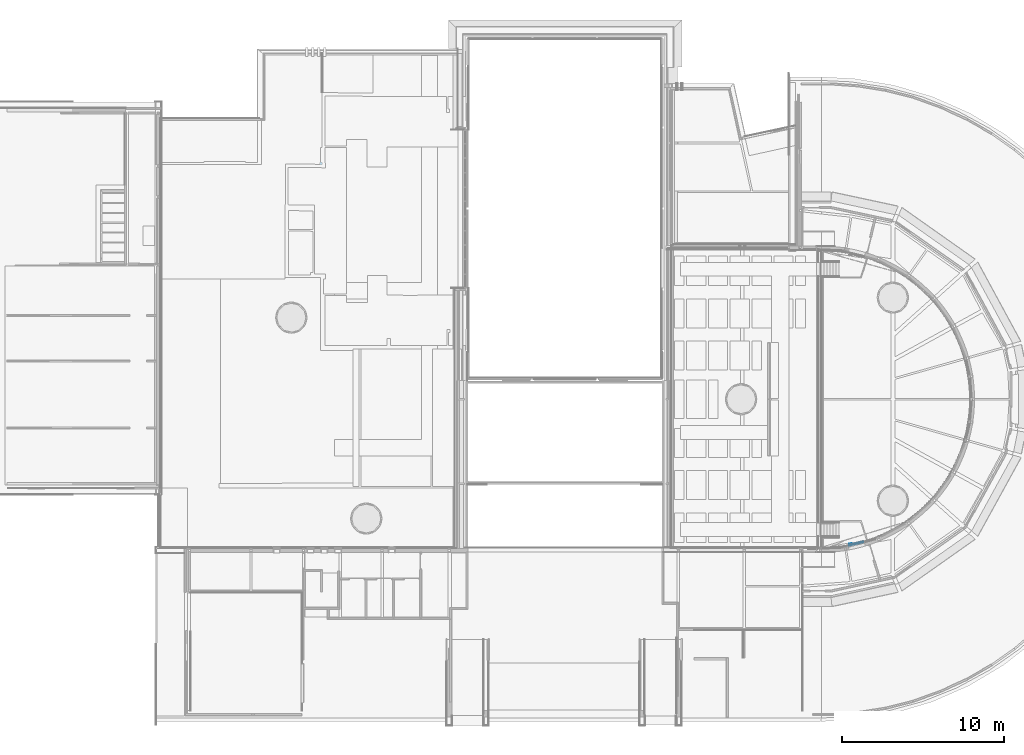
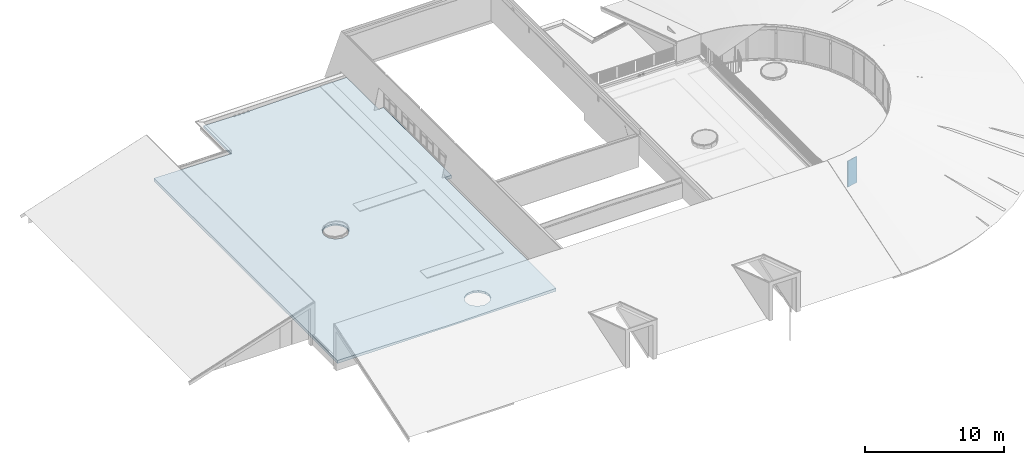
# One storey, part 44 of 66: 1 plate, 1 slab, 1 element without a shape of its own.
"""IFC2X3 building model written with IfcOpenShell, lengths in millimetres."""

import ifcopenshell
import ifcopenshell.guid

model = None  # the IFC model being written
_history = None  # IfcOwnerHistory: only IFC2X3 demands one
_inside = {}  # id of a spatial element -> (the spatial element, [elements in it])
_under = {}  # id of a project, library or spatial element -> (it, [spatial elements below it])
_declared = {}  # id of a project -> (the project, [libraries it declares])
_typed = {}  # id of a type object -> (the type object, [elements of that type])
_made_of = {}  # id of a material, layer set ... -> (it, [elements and type objects made of it])


def new_model(schema):
    """Start an empty IFC model of exactly this schema.

    Asked for "IFC4X3", IfcOpenShell would pick the latest addendum, in which some entities
    have other attributes; the version numbers below select the first issue.
    IFC2X3 requires an IfcOwnerHistory on every rooted entity: one is made here for all.
    """
    global model, _history
    if schema == "IFC4X3":
        model = ifcopenshell.file(schema_version=(4, 3, 0, 0))
    else:
        model = ifcopenshell.file(schema=schema)
    _inside.clear()
    _under.clear()
    _declared.clear()
    _typed.clear()
    _made_of.clear()
    _history = None
    if model.schema == "IFC2X3":
        org = make("IfcOrganization", Name="unknown")
        user = make(
            "IfcPersonAndOrganization",
            ThePerson=make("IfcPerson", FamilyName="unknown"),
            TheOrganization=org,
        )
        app = make(
            "IfcApplication",
            ApplicationDeveloper=org,
            Version="unknown",
            ApplicationFullName="unknown",
            ApplicationIdentifier="unknown",
        )
        _history = make(
            "IfcOwnerHistory",
            OwningUser=user,
            OwningApplication=app,
            ChangeAction="ADDED",
            CreationDate=0,
        )
    return model


def make(cls, **values):
    """One entity of the class cls with the attributes given. An attribute that is None is left unset."""
    return model.create_entity(
        cls, **{name: value for name, value in values.items() if value is not None}
    )


def entity(cls, *values):
    """Any entity or typed value of the class cls, its attributes in the order of the schema. None: left unset."""
    e = model.create_entity(cls)
    for i, value in enumerate(values):
        if value is not None:
            e[i] = value
    return e


def rooted(cls, **values):
    """An entity with a GlobalId (a new one), such as an element, a storey or a relation."""
    return make(cls, GlobalId=ifcopenshell.guid.new(), OwnerHistory=_history, **values)


def si_unit(unit_type, name, prefix=None):
    """IfcSIUnit, for example si_unit("LENGTHUNIT", "METRE", prefix="MILLI")."""
    return make("IfcSIUnit", UnitType=unit_type, Prefix=prefix, Name=name)


def converted_unit(unit_type, name, factor, base, dimensions=None, offset=None):
    """IfcConversionBasedUnit, such as the inch: factor (a typed value) times the base unit."""
    return make(
        "IfcConversionBasedUnit"
        if offset is None
        else "IfcConversionBasedUnitWithOffset",
        ConversionOffset=offset,
        Dimensions=None
        if dimensions is None
        else entity("IfcDimensionalExponents", *dimensions),
        UnitType=unit_type,
        Name=name,
        ConversionFactor=make(
            "IfcMeasureWithUnit", ValueComponent=factor, UnitComponent=base
        ),
    )


def derived_unit(unit_type, elements):
    """IfcDerivedUnit: a product of units, each with its exponent."""
    return make(
        "IfcDerivedUnit",
        Elements=[
            make("IfcDerivedUnitElement", Unit=unit, Exponent=power)
            for unit, power in elements
        ],
        UnitType=unit_type,
    )


def assignment(units):
    """IfcUnitAssignment: the units of a project."""
    return None if units is None else make("IfcUnitAssignment", Units=units)


def point(xyz):
    """IfcCartesianPoint."""
    return None if xyz is None else make("IfcCartesianPoint", Coordinates=xyz)


def direction(xyz):
    """IfcDirection."""
    return None if xyz is None else make("IfcDirection", DirectionRatios=xyz)


def frame(location, z_axis=None, x_axis=None):
    """IfcAxis2Placement3D, a coordinate frame: its origin and axes. An axis left out is left unset."""
    return make(
        "IfcAxis2Placement3D",
        Location=point(location),
        Axis=direction(z_axis),
        RefDirection=direction(x_axis),
    )


def origin():
    """The frame at (0, 0, 0) with its axes left unset."""
    return frame((0.0, 0.0, 0.0))


def place(relative_to, where):
    """IfcLocalPlacement: puts the frame where relative to a parent placement (None: the world)."""
    return make(
        "IfcLocalPlacement", PlacementRelTo=relative_to, RelativePlacement=where
    )


def context(
    kind, dimensions, precision=None, world=None, true_north=None, identifier=None
):
    """IfcGeometricRepresentationContext, for example the 3D "Model" context."""
    return make(
        "IfcGeometricRepresentationContext",
        ContextIdentifier=identifier,
        ContextType=kind,
        CoordinateSpaceDimension=dimensions,
        Precision=precision,
        WorldCoordinateSystem=world,
        TrueNorth=true_north,
    )


def subcontext(parent, identifier, kind, view, scale=None):
    """IfcGeometricRepresentationSubContext, for example "Body" below "Model"."""
    return make(
        "IfcGeometricRepresentationSubContext",
        ContextIdentifier=identifier,
        ContextType=kind,
        ParentContext=parent,
        TargetScale=scale,
        TargetView=view,
    )


def project(units=None, contexts=None):
    """IfcProject with its units and contexts."""
    return rooted(
        "IfcProject",
        Name="project",
        RepresentationContexts=contexts,
        UnitsInContext=assignment(units),
    )


def spatial(cls, under=None, at=None, **own):
    """A site, building, storey or space (cls), placed at a placement, below another one or the project."""
    s = rooted(cls, ObjectPlacement=at, **own)
    if under is not None:
        _under.setdefault(under.id(), (under, []))[1].append(s)
    return s


def faces_of(points, faces, orient=None, outer=None):
    """IfcFace entities. A face is a list of loops; a loop is a list of indices into points, from 0.

    orient and outer hold one flag for each loop. By default every Orientation is true, the
    first loop of a face is its IfcFaceOuterBound and the others are IfcFaceBound.
    """
    made = []
    for i, loops in enumerate(faces):
        bounds = []
        for j, loop in enumerate(loops):
            is_outer = j == 0 if outer is None else outer[i][j]
            bounds.append(
                make(
                    "IfcFaceOuterBound" if is_outer else "IfcFaceBound",
                    Bound=make("IfcPolyLoop", Polygon=[points[k] for k in loop]),
                    Orientation=True if orient is None else orient[i][j],
                )
            )
        made.append(make("IfcFace", Bounds=bounds))
    return made


def faceted_brep(points, faces, orient=None, outer=None, voids=None):
    """IfcFacetedBrep: a solid bounded by flat faces; with voids (closed shells), ...WithVoids."""
    shared = [point(p) for p in points]
    hull = make("IfcClosedShell", CfsFaces=faces_of(shared, faces, orient, outer))
    if voids is None:
        return make("IfcFacetedBrep", Outer=hull)
    return make(
        "IfcFacetedBrepWithVoids",
        Outer=hull,
        Voids=[
            make(cls, CfsFaces=faces_of(shared, fs, o, b)) for cls, fs, o, b in voids
        ],
    )


def shape(context_of_items, identifier, shape_type, items):
    """IfcShapeRepresentation: the items that make up one representation, for example the "Body"."""
    return make(
        "IfcShapeRepresentation",
        ContextOfItems=context_of_items,
        RepresentationIdentifier=identifier,
        RepresentationType=shape_type,
        Items=items,
    )


def source(mapping_origin, context_of_items, identifier, shape_type, items):
    """IfcRepresentationMap: a shape defined once, which mapped items show again and again."""
    return make(
        "IfcRepresentationMap",
        MappingOrigin=mapping_origin,
        MappedRepresentation=shape(context_of_items, identifier, shape_type, items),
    )


def transform(
    local_origin,
    x_axis=None,
    y_axis=None,
    z_axis=None,
    scale=None,
    scale2=None,
    scale3=None,
    uniform=True,
):
    """IfcCartesianTransformationOperator3D, or its non-uniform kind. x_axis, y_axis, z_axis: its Axis1, 2, 3."""
    if uniform:
        return make(
            "IfcCartesianTransformationOperator3D",
            Axis1=direction(x_axis),
            Axis2=direction(y_axis),
            LocalOrigin=point(local_origin),
            Scale=scale,
            Axis3=direction(z_axis),
        )
    return make(
        "IfcCartesianTransformationOperator3DnonUniform",
        Axis1=direction(x_axis),
        Axis2=direction(y_axis),
        LocalOrigin=point(local_origin),
        Scale=scale,
        Axis3=direction(z_axis),
        Scale2=scale2,
        Scale3=scale3,
    )


def mapped(mapping_source, mapping_target):
    """IfcMappedItem: shows the shape of a source again, moved by a transform."""
    return make(
        "IfcMappedItem", MappingSource=mapping_source, MappingTarget=mapping_target
    )


def material(Name=None, Category=None):
    """IfcMaterial."""
    return make("IfcMaterial", Name=Name, Category=Category)


def material_list(materials):
    """IfcMaterialList."""
    return make("IfcMaterialList", Materials=materials)


def made_of(thing, what):
    """Note that an element or type object is made of a material, layer set ...; save() writes the relation."""
    if what is not None:
        _made_of.setdefault(what.id(), (what, []))[1].append(thing)
    return thing


def type_object(cls, material=None, **own):
    """A type object (cls), such as IfcWallType, which elements share."""
    return made_of(rooted(cls, **own), material)


def type_shapes(of_type, sources):
    """Give a type object the sources (RepresentationMaps) that its elements show as mapped items."""
    of_type.RepresentationMaps = sources


def element(
    cls,
    number,
    at=None,
    inside=None,
    cuts=None,
    type_object=None,
    material=None,
    context=None,
    identifier="Body",
    shape_type=None,
    held_by="IfcProductDefinitionShape",
    body=None,
    shapes=None,
    **own,
):
    """One element of the class cls, such as IfcWall. Its Tag is "e" and its number.

    at: its placement. inside: the storey or other place that contains it. cuts: it is an
    opening in that element (IfcRelVoidsElement). A single representation is given by context,
    identifier, shape_type and body (its items); several are given by shapes. held_by: the class
    of the entity that holds the representations. save() writes the other relations.
    """
    e = rooted(cls, Tag="e%d" % number, ObjectPlacement=at, **own)
    if body is not None:
        shapes = [shape(context, identifier, shape_type, body)]
    if shapes is not None:
        e.Representation = make(held_by, Representations=shapes)
    if inside is not None:
        _inside.setdefault(inside.id(), (inside, []))[1].append(e)
    if cuts is not None:
        rooted(
            "IfcRelVoidsElement", RelatingBuildingElement=cuts, RelatedOpeningElement=e
        )
    if type_object is not None:
        _typed.setdefault(type_object.id(), (type_object, []))[1].append(e)
    return made_of(e, material)


def aggregate(whole, parts):
    """IfcRelAggregates: a whole, such as a stair, and the parts it consists of."""
    return rooted("IfcRelAggregates", RelatingObject=whole, RelatedObjects=parts)


def save(model, path):
    """Write the relations noted so far, then the file.

    IfcRelAggregates (storeys below a building ...), IfcRelContainedInSpatialStructure (elements
    in a storey), IfcRelDefinesByType, IfcRelAssociatesMaterial and IfcRelDeclares: one each for
    every whole, place, type object, material and project.
    """
    for whole, parts in _under.values():
        aggregate(whole, parts)
    for where, things in _inside.values():
        rooted(
            "IfcRelContainedInSpatialStructure",
            RelatedElements=things,
            RelatingStructure=where,
        )
    for kind, things in _typed.values():
        rooted("IfcRelDefinesByType", RelatedObjects=things, RelatingType=kind)
    for what, things in _made_of.values():
        rooted("IfcRelAssociatesMaterial", RelatedObjects=things, RelatingMaterial=what)
    for by, libraries in _declared.values():
        rooted("IfcRelDeclares", RelatingContext=by, RelatedDefinitions=libraries)
    model.write(path)


model = new_model("IFC2X3")

# Units and contexts
model_context = context("Model", 3, precision=0.01, world=origin(), true_north=direction((6.12303176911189e-17, 1.0)))
body_context = subcontext(model_context, "Body", "Model", "MODEL_VIEW")
ifc_project = project(units=[si_unit("LENGTHUNIT", "METRE", prefix="MILLI"), si_unit("AREAUNIT", "SQUARE_METRE"), si_unit("VOLUMEUNIT", "CUBIC_METRE"), converted_unit("PLANEANGLEUNIT", "DEGREE", entity("IfcRatioMeasure", 0.0174532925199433), si_unit("PLANEANGLEUNIT", "RADIAN"), dimensions=[0, 0, 0, 0, 0, 0, 0]), si_unit("MASSUNIT", "GRAM", prefix="KILO"), derived_unit("MASSDENSITYUNIT", [(si_unit("MASSUNIT", "GRAM", prefix="KILO"), 1), (si_unit("LENGTHUNIT", "METRE"), -3)]), derived_unit("MOMENTOFINERTIAUNIT", [(si_unit("LENGTHUNIT", "METRE"), 4)]), si_unit("TIMEUNIT", "SECOND"), si_unit("FREQUENCYUNIT", "HERTZ"), si_unit("THERMODYNAMICTEMPERATUREUNIT", "DEGREE_CELSIUS"), derived_unit("THERMALTRANSMITTANCEUNIT", [(si_unit("MASSUNIT", "GRAM", prefix="KILO"), 1), (si_unit("THERMODYNAMICTEMPERATUREUNIT", "KELVIN"), -1), (si_unit("TIMEUNIT", "SECOND"), -3)]), derived_unit("VOLUMETRICFLOWRATEUNIT", [(si_unit("LENGTHUNIT", "METRE"), 3), (si_unit("TIMEUNIT", "SECOND"), -1)]), si_unit("ELECTRICCURRENTUNIT", "AMPERE"), si_unit("ELECTRICVOLTAGEUNIT", "VOLT"), si_unit("POWERUNIT", "WATT"), si_unit("FORCEUNIT", "NEWTON", prefix="KILO"), si_unit("ILLUMINANCEUNIT", "LUX"), si_unit("LUMINOUSFLUXUNIT", "LUMEN"), si_unit("LUMINOUSINTENSITYUNIT", "CANDELA"), derived_unit("USERDEFINED", [(si_unit("MASSUNIT", "GRAM", prefix="KILO"), -1), (si_unit("LENGTHUNIT", "METRE"), -2), (si_unit("TIMEUNIT", "SECOND"), 3), (si_unit("LUMINOUSFLUXUNIT", "LUMEN"), 1)]), derived_unit("LINEARVELOCITYUNIT", [(si_unit("LENGTHUNIT", "METRE"), 1), (si_unit("TIMEUNIT", "SECOND"), -1)]), si_unit("PRESSUREUNIT", "PASCAL"), derived_unit("USERDEFINED", [(si_unit("LENGTHUNIT", "METRE"), -2), (si_unit("MASSUNIT", "GRAM", prefix="KILO"), 1), (si_unit("TIMEUNIT", "SECOND"), -2)]), derived_unit("LINEARFORCEUNIT", [(si_unit("MASSUNIT", "GRAM", prefix="KILO"), 1), (si_unit("LENGTHUNIT", "METRE"), 1), (si_unit("TIMEUNIT", "SECOND"), -2), (si_unit("LENGTHUNIT", "METRE"), -1)]), derived_unit("PLANARFORCEUNIT", [(si_unit("MASSUNIT", "GRAM", prefix="KILO"), 1), (si_unit("LENGTHUNIT", "METRE"), 1), (si_unit("TIMEUNIT", "SECOND"), -2), (si_unit("LENGTHUNIT", "METRE"), -2)])], contexts=[model_context])

# Site, building, storey
site_placement = place(None, origin())
site = spatial("IfcSite", under=ifc_project, at=site_placement, Name="Default", CompositionType="ELEMENT")
building_placement = place(site_placement, origin())
building = spatial("IfcBuilding", under=site, at=building_placement, Name="-", CompositionType="ELEMENT")
storey_placement = place(building_placement, frame((0.0, 0.0, 3070.0)))
storey = spatial("IfcBuildingStorey", under=building, at=storey_placement, Name="01 eerste verdieping", CompositionType="ELEMENT", Elevation=3070.00000000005)

# Slab
ifc_material_1 = material(Name="NLRS_n7_isolatie PIR_gen")
slab_type = type_object("IfcSlabType", Name="Floor:NLRS_23_FL_Pir dakisolatie afschot", PredefinedType="FLOOR")
slab_placement = place(storey_placement, origin())
element("IfcSlab", 1, at=slab_placement, inside=storey, type_object=slab_type, material=ifc_material_1, Name="Floor:NLRS_23_FL_Pir dakisolatie afschot", ObjectType="Floor:NLRS_23_FL_Pir dakisolatie afschot", PredefinedType="FLOOR", context=body_context, shape_type="Brep", body=[
    faceted_brep([(19158.6817240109, 27341.0702504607, 0.0), (19150.454482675, 27336.3202504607, 0.0), (19142.227241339, 27331.5702504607, 0.0), (19134.0, 27326.8202504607, 0.0), (19125.5673471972, 27331.6888448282, 0.0), (19117.5455173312, 27336.3202504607, 0.0), (19109.3182759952, 27341.0702504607, 0.0), (19101.0910346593, 27345.8202504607, 0.0), (19101.0910346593, 27355.3202504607, 0.0), (19101.0910346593, 27364.8202504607, 0.0), (19101.0910346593, 27374.3202504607, 0.0), (19101.0910346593, 27383.8202504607, 0.0), (19109.3182759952, 27388.5702504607, 0.0), (19117.5455173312, 27393.3202504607, 0.0), (19125.7727586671, 27398.0702504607, 0.0), (19134.0, 27402.8202504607, 0.0), (19142.4326528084, 27397.9516560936, 0.0), (19150.8653056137, 27393.0830617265, 0.0), (19158.8871354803, 27388.4516560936, 0.0), (19166.9089653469, 27383.8202504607, 0.0), (19166.9089653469, 27374.3202504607, 0.0), (19166.9089653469, 27364.8202504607, 0.0), (19166.9089653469, 27355.3202504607, 0.0), (19166.9089653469, 27345.8202504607, 0.0), (27986.4481330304, 26459.9944949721, 0.0), (28177.8909272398, 36275.0729580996, 0.0), (28569.1607959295, 26459.9944949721, 0.0), (19168.6410161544, 27384.8202504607, 0.0), (19168.6410161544, 27374.8202504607, 0.0), (19168.6410161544, 27364.8202504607, 0.0), (19168.6410161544, 27354.8202504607, 0.0), (19168.6410161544, 27344.8202504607, 0.0), (18849.015809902, 24645.9191730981, 0.0), (18789.0252018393, 24383.0831458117, 0.0), (18752.9556117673, 24225.0519461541, 0.0), (22693.2986235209, 13179.2460511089, 0.0), (22941.7120745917, 13073.9034750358, 0.0), (23070.2895746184, 13019.3787098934, 0.0), (27986.4481330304, 10388.1417076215, 0.0), (23232.7406609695, 12823.0308054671, 0.0), (23395.1917473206, 12626.6829010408, 0.0), (23438.4107945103, 12426.5464732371, 0.0), (23481.6298417, 12226.4100454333, 0.0), (23433.5997426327, 12015.9764319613, 0.0), (23385.5696435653, 11805.5428184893, 0.0), (23206.6352997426, 11605.3151953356, 0.0), (23027.7009559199, 11405.0875721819, 0.0), (22769.6653988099, 11330.7488088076, 0.0), (22511.6298417, 11256.4100454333, 0.0), (9790.66079592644, 10388.1417076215, 0.0), (22253.5942845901, 11330.7488088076, 0.0), (21995.5587274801, 11405.0875721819, 0.0), (21816.6243836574, 11605.3151953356, 0.0), (21637.6900398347, 11805.5428184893, 0.0), (21589.6599407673, 12015.9764319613, 0.0), (21541.6298417, 12226.4100454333, 0.0), (21584.226416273, 12425.1667036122, 0.0), (21626.822990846, 12623.9233617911, 0.0), (17362.9446956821, 23824.5966998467, 0.0), (17184.0103518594, 24024.8243230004, 0.0), (17005.0760080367, 24225.0519461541, 0.0), (16957.0459089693, 24435.4855596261, 0.0), (16909.015809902, 24645.9191730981, 0.0), (9790.66079592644, 36843.0041889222, 0.0), (16951.612384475, 24844.675831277, 0.0), (16994.2089590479, 25043.4324894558, 0.0), (17161.9791810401, 25299.1867085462, 0.0), (16242.6607959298, 36843.0041889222, 0.0), (28177.8909272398, 40895.7541561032, 0.0), (19099.3589838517, 27384.8202504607, 0.0), (19134.0, 27404.8202504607, 0.0), (19124.8929271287, 27399.5622794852, 0.0), (16242.6607959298, 40895.7541561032, 0.0), (19115.7858542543, 27394.3043085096, 0.0), (19107.572419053, 27389.5622794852, 0.0), (17340.9758050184, 25424.1163478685, 0.0), (17519.9724289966, 25549.0459871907, 0.0), (19099.3589838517, 27374.8202504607, 0.0), (19099.3589838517, 27364.8202504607, 0.0), (19099.3589838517, 27354.8202504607, 0.0), (19099.3589838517, 27344.8202504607, 0.0), (17795.4440069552, 25574.3708649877, 0.0), (18060.6845917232, 25598.7551787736, 0.0), (19108.0192378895, 27339.8202504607, 0.0), (19116.6794919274, 27334.8202504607, 0.0), (19125.3397459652, 27329.8202504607, 0.0), (19134.0, 27324.8202504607, 0.0), (18249.1800672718, 25518.8215081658, 0.0), (18437.6755428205, 25438.8878375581, 0.0), (18600.1266291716, 25242.5399331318, 0.0), (18762.5777155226, 25046.1920287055, 0.0), (19143.107072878, 27330.0782214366, 0.0), (19151.3205080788, 27334.8202504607, 0.0), (19159.9807621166, 27339.8202504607, 0.0), (18805.7967627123, 24846.0556009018, 0.0), (17620.9802527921, 23750.2579364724, 0.0), (17879.015809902, 23675.9191730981, 0.0), (21794.5932128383, 12879.6775808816, 0.0), (22014.1054239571, 13032.8848355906, 0.0), (22152.5864607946, 13129.5368595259, 0.0), (18137.0513670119, 23750.2579364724, 0.0), (18395.0869241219, 23824.5966998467, 0.0), (22422.9425421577, 13154.3914553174, 0.0), (18574.0212679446, 24024.8243230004, 0.0), (18663.488439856, 24124.9381345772, 0.0), (19159.9807621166, 27389.8202504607, 0.0), (19151.3205080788, 27394.8202504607, 0.0), (19142.6602540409, 27399.8202504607, 0.0), (28569.1607959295, 36275.0729580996, 0.0), (17059.6146204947, 25123.5892793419, 157.590166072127), (17161.9791810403, 25299.1867085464, 155.952333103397), (16957.2500599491, 24947.9918501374, 159.227999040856), (16909.015809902, 24645.9191730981, 159.999747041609), (21692.2286522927, 12704.0801516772, 157.331658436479), (21794.5932128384, 12879.6775808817, 158.969491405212), (21589.8640917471, 12528.4827224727, 155.693825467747), (21541.6298417, 12226.4100454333, 154.922077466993), (16242.6607959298, 36843.0041889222, 170.661427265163), (16242.6607959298, 40895.7541561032, 170.661427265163), (28177.8909272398, 40895.7541561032, 261.102254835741), (28177.8909272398, 36275.0729580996, 261.102254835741), (21589.6599407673, 12015.9764319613, 155.690559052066), (21637.6900398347, 11805.5428184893, 156.459040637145), (23421.6402991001, 11963.5786862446, 185.002244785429), (23481.6298417, 12226.4100454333, 185.962077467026), (23385.5696435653, 11805.5428184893, 184.425114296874), (21727.157211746, 11705.4290069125, 157.890515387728), (21816.6243836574, 11605.3151953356, 159.321990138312), (21995.5587274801, 11405.0875721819, 162.18493963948), (22253.5942845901, 11330.7488088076, 166.313508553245), (22511.6298417, 11256.4100454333, 170.44207746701), (23206.6352997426, 11605.3151953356, 181.562164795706), (23027.7009559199, 11405.0875721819, 178.699215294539), (22769.6653988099, 11330.7488088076, 174.570646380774), (23424.6748412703, 12490.1523731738, 185.050797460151), (23232.7375669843, 12823.033836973, 181.979801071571), (23070.2845201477, 13019.3822708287, 179.380552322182), (23395.190613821, 12626.6854031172, 184.57904982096), (22881.7915718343, 13099.3141609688, 176.364665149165), (22693.2986235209, 13179.2460511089, 173.348777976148), (9790.66079592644, 36843.0041889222, 273.893427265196), (16957.0459089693, 24435.4855596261, 159.231265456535), (17005.0760080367, 24225.0519461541, 158.462783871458), (17184.0103518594, 24024.8243230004, 155.599834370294), (17362.9446956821, 23824.5966998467, 152.73688486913), (18395.0869241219, 23824.5966998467, 136.222609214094), (17879.015809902, 23675.9191730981, 144.479747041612), (18137.0513670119, 23750.2579364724, 140.351178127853), (18752.9556117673, 24225.0519461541, 130.496710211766), (18574.0212679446, 24024.8243230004, 133.35965971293), (17620.9802527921, 23750.2579364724, 148.608315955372), (18800.9857108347, 24435.4855596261, 129.728228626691), (18849.015809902, 24645.9191730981, 128.959747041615), (18805.7961959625, 24846.0568519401, 129.651260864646), (18600.1235351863, 25242.5429646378, 132.942023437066), (18762.576582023, 25046.1945307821, 130.34277468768), (18437.6704883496, 25438.8913984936, 135.541272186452), (18060.6845917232, 25598.7551787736, 141.57304653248), (18308.9680070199, 25493.46867945, 137.600511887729), (19284.0, 10388.1417076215, 122.0), (9790.66079592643, 10388.1417076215, 273.893427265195), (27986.4481330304, 10388.1417076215, 258.039170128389), (19484.0, 10388.1417076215, 122.0), (19484.0, 40895.7541561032, 122.0), (19284.0, 40895.7541561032, 122.0), (28569.1607959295, 36275.0729580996, 267.362572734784), (28569.1607959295, 26459.9944949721, 267.362572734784), (27986.4481330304, 26459.9944949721, 258.039170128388), (22428.1639546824, 13154.8714744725, 169.106623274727), (22152.5864607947, 13129.536859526, 164.697383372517), (21973.5898368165, 13004.6072202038, 161.833437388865), (17790.3285103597, 25573.9005829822, 145.898743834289), (17519.9724289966, 25549.0459871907, 150.224441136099), (17381.4172063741, 25452.3421857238, 152.441324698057), (19099.3589838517, 27354.8202504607, 70.0), (19099.3589838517, 27344.8202504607, 70.0), (19099.3589838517, 27384.8202504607, 70.0), (19099.3589838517, 27374.8202504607, 70.0), (19099.3589838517, 27364.8202504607, 70.0), (19116.6794919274, 27394.8202504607, 70.0), (19108.0192378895, 27389.8202504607, 70.0), (19134.0, 27404.8202504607, 70.0), (19124.8929271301, 27399.562279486, 70.0), (19134.0, 27324.8202504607, 70.0), (19108.0192378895, 27339.8202504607, 70.0), (19116.6794919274, 27334.8202504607, 70.0), (19124.8929271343, 27330.078221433, 70.0), (19143.1070728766, 27330.0782214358, 70.0), (19152.2141457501, 27335.3361924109, 70.0), (19160.4275809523, 27340.0782214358, 70.0), (19168.6410161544, 27344.8202504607, 70.0), (19168.6410161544, 27364.8202504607, 70.0), (19168.6410161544, 27374.8202504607, 70.0), (19168.6410161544, 27384.8202504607, 70.0), (19168.6410161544, 27354.8202504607, 70.0), (19159.9807621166, 27389.8202504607, 70.0), (19151.3205080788, 27394.8202504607, 70.0), (19143.1070728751, 27399.5622794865, 70.0), (19134.0, 27326.8202504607, 70.0), (19142.4326528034, 27331.688844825, 70.0), (19150.454482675, 27336.3202504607, 70.0), (19158.6817240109, 27341.0702504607, 70.0), (19166.9089653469, 27345.8202504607, 70.0), (19166.9089653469, 27355.3202504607, 70.0), (19166.9089653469, 27364.8202504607, 70.0), (19166.9089653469, 27374.3202504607, 70.0), (19166.9089653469, 27383.8202504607, 70.0), (19125.5673471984, 27331.6888448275, 70.0), (19117.1346943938, 27336.5574391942, 70.0), (19109.1128645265, 27341.1888448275, 70.0), (19101.0910346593, 27345.8202504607, 70.0), (19101.0910346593, 27355.3202504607, 70.0), (19101.0910346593, 27364.8202504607, 70.0), (19101.0910346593, 27374.3202504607, 70.0), (19101.0910346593, 27383.8202504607, 70.0), (19109.3182759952, 27388.5702504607, 70.0), (19117.5455173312, 27393.3202504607, 70.0), (19125.5673471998, 27397.9516560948, 70.0), (19134.0, 27402.8202504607, 70.0), (19158.6817240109, 27388.5702504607, 70.0), (19150.454482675, 27393.3202504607, 70.0), (19142.4326528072, 27397.9516560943, 70.0)], [[[0, 1, 2, 3, 4, 5, 6, 7, 8, 9, 10, 11, 12, 13, 14, 15, 16, 17, 18, 19, 20, 21, 22, 23]], [[0, 19, 20]], [[19, 0, 1]], [[0, 20, 21]], [[0, 21, 22]], [[0, 22, 23]], [[19, 1, 2]], [[19, 2, 3]], [[19, 3, 4]], [[19, 4, 5]], [[19, 5, 6]], [[19, 6, 7]], [[19, 7, 8]], [[19, 8, 9]], [[19, 9, 10]], [[19, 10, 11]], [[19, 11, 12]], [[19, 12, 13]], [[19, 13, 14]], [[14, 18, 19]], [[14, 17, 18]], [[14, 16, 17]], [[14, 15, 16]], [[24, 25, 26]], [[25, 24, 27]], [[24, 28, 27]], [[24, 29, 28]], [[24, 30, 29]], [[24, 31, 30]], [[31, 24, 32]], [[24, 33, 32]], [[24, 34, 33]], [[24, 35, 34]], [[24, 36, 35]], [[24, 37, 36]], [[38, 37, 24]], [[38, 39, 37]], [[38, 40, 39]], [[38, 41, 40]], [[38, 42, 41]], [[38, 43, 42]], [[38, 44, 43]], [[38, 45, 44]], [[38, 46, 45]], [[38, 47, 46]], [[38, 48, 47]], [[49, 48, 38]], [[49, 50, 48]], [[49, 51, 50]], [[49, 52, 51]], [[49, 53, 52]], [[49, 54, 53]], [[49, 55, 54]], [[49, 56, 55]], [[49, 57, 56]], [[58, 57, 49]], [[49, 59, 58]], [[49, 60, 59]], [[49, 61, 60]], [[49, 62, 61]], [[62, 49, 63]], [[63, 64, 62]], [[63, 65, 64]], [[63, 66, 65]], [[66, 63, 67]], [[67, 68, 25]], [[69, 66, 67]], [[67, 25, 70]], [[67, 70, 71]], [[67, 72, 68]], [[67, 71, 73]], [[67, 73, 74]], [[67, 74, 69]], [[69, 75, 66]], [[69, 76, 75]], [[76, 69, 77]], [[76, 77, 78]], [[76, 78, 79]], [[76, 79, 80]], [[80, 81, 76]], [[80, 82, 81]], [[82, 80, 83]], [[82, 83, 84]], [[82, 84, 85]], [[82, 85, 86]], [[86, 87, 82]], [[86, 88, 87]], [[86, 89, 88]], [[86, 90, 89]], [[90, 86, 91]], [[90, 91, 92]], [[90, 92, 93]], [[90, 93, 31]], [[31, 32, 94]], [[31, 94, 90]], [[57, 58, 95]], [[57, 95, 96]], [[97, 57, 96]], [[96, 98, 97]], [[96, 99, 98]], [[99, 96, 100]], [[99, 100, 101]], [[101, 35, 102]], [[35, 101, 103]], [[101, 102, 99]], [[35, 103, 104]], [[35, 104, 34]], [[25, 27, 105]], [[25, 105, 106]], [[25, 106, 107]], [[25, 107, 70]], [[108, 26, 25]], [[65, 66, 109]], [[66, 110, 109]], [[109, 111, 65]], [[64, 111, 112]], [[112, 62, 64]], [[64, 65, 111]], [[57, 97, 113]], [[97, 114, 113]], [[56, 57, 115]], [[56, 115, 116]], [[116, 55, 56]], [[113, 115, 57]], [[72, 67, 117, 118]], [[25, 68, 119, 120]], [[121, 122, 53, 54, 55, 116]], [[123, 124, 42, 43, 44, 125]], [[126, 127, 128, 51, 52, 53, 122]], [[129, 130, 48, 50, 51, 128]], [[131, 125, 44, 45, 46, 132]], [[133, 132, 46, 47, 48, 130]], [[41, 134, 40]], [[135, 136, 39]], [[134, 137, 40]], [[37, 39, 136]], [[138, 36, 136]], [[134, 41, 124]], [[37, 136, 36]], [[36, 138, 35]], [[138, 139, 35]], [[137, 135, 40]], [[124, 41, 42]], [[40, 135, 39]], [[67, 63, 140, 117]], [[112, 141, 142, 60, 61, 62]], [[142, 143, 144, 58, 59, 60]], [[145, 101, 100, 96, 146, 147]], [[148, 34, 104, 103, 101, 145, 149]], [[150, 146, 96, 95, 58, 144]], [[34, 148, 151, 152, 32, 33]], [[90, 94, 153]], [[89, 154, 88]], [[89, 90, 155]], [[32, 152, 94]], [[156, 88, 154]], [[157, 82, 87]], [[153, 94, 152]], [[153, 155, 90]], [[156, 158, 88]], [[87, 88, 158]], [[154, 89, 155]], [[87, 158, 157]], [[159, 160, 49, 38, 161, 162]], [[163, 119, 68, 72, 118, 164]], [[108, 25, 120, 165]], [[26, 108, 165, 166]], [[24, 26, 166, 167]], [[38, 24, 167, 161]], [[63, 49, 160, 140]], [[102, 35, 139, 168, 169, 99]], [[170, 114, 97, 98, 99, 169]], [[81, 82, 157, 171, 172, 76]], [[110, 66, 75, 76, 172, 173]], [[174, 175, 80, 79, 78, 77, 69, 176, 177, 178]], [[179, 180, 176, 69, 74, 73, 71, 70, 181, 182]], [[183, 86, 85, 84, 83, 80, 175, 184, 185, 186]], [[31, 93, 92, 91, 86, 183, 187, 188, 189, 190]], [[191, 192, 193, 27, 28, 29, 30, 31, 190, 194]], [[105, 27, 193, 195, 196, 197, 181, 70, 107, 106]], [[190, 198, 199]], [[198, 190, 189]], [[190, 199, 200]], [[190, 200, 201]], [[190, 201, 202]], [[190, 202, 203]], [[190, 203, 204]], [[190, 204, 205]], [[190, 205, 206]], [[206, 194, 190]], [[198, 189, 188]], [[198, 188, 187]], [[198, 187, 183]], [[183, 207, 198]], [[183, 208, 207]], [[183, 209, 208]], [[183, 210, 209]], [[210, 183, 186]], [[210, 186, 185]], [[210, 185, 184]], [[210, 184, 175]], [[175, 211, 210]], [[175, 212, 211]], [[175, 213, 212]], [[175, 214, 213]], [[214, 175, 174]], [[214, 174, 178]], [[214, 178, 177]], [[214, 177, 176]], [[214, 176, 180]], [[214, 180, 179]], [[214, 179, 182]], [[214, 182, 181]], [[181, 215, 214]], [[181, 216, 215]], [[181, 217, 216]], [[181, 218, 217]], [[218, 181, 197]], [[218, 197, 196]], [[218, 196, 195]], [[218, 195, 193]], [[193, 206, 219]], [[206, 193, 192]], [[193, 219, 220]], [[193, 220, 221]], [[193, 221, 218]], [[206, 192, 191]], [[206, 191, 194]], [[19, 18, 17, 16, 15, 218, 221, 220, 219, 206]], [[2, 1, 0, 23, 202, 201, 200, 199, 198, 3]], [[202, 23, 22, 21, 20, 19, 206, 205, 204, 203]], [[214, 11, 10, 9, 8, 7, 210, 211, 212, 213]], [[13, 12, 11, 214, 215, 216, 217, 218, 15, 14]], [[207, 208, 209, 210, 7, 6, 5, 4, 3, 198]], [[117, 157, 158]], [[117, 158, 156]], [[164, 117, 156]], [[164, 118, 117]], [[117, 171, 157]], [[117, 172, 171]], [[117, 173, 172]], [[117, 110, 173]], [[140, 110, 117]], [[140, 109, 110]], [[140, 111, 109]], [[111, 140, 112]], [[140, 160, 112]], [[160, 141, 112]], [[160, 142, 141]], [[160, 143, 142]], [[160, 144, 143]], [[159, 144, 160]], [[159, 164, 152]], [[159, 152, 151]], [[159, 151, 148]], [[159, 148, 149]], [[159, 149, 145]], [[159, 145, 147]], [[159, 147, 146]], [[159, 146, 150]], [[159, 150, 144]], [[164, 156, 154]], [[164, 154, 155]], [[164, 155, 153]], [[164, 153, 152]], [[167, 166, 120]], [[167, 120, 163]], [[167, 163, 114]], [[167, 114, 170]], [[167, 170, 169]], [[167, 169, 168]], [[167, 168, 139]], [[167, 139, 138]], [[167, 138, 136]], [[167, 136, 161]], [[165, 120, 166]], [[163, 120, 119]], [[162, 114, 163]], [[161, 130, 162]], [[162, 130, 129]], [[162, 129, 128]], [[162, 128, 127]], [[162, 127, 126]], [[162, 126, 122]], [[162, 122, 121]], [[162, 121, 116]], [[162, 116, 115]], [[162, 115, 113]], [[162, 113, 114]], [[161, 136, 135]], [[161, 135, 137]], [[161, 137, 134]], [[161, 134, 124]], [[161, 124, 123]], [[161, 123, 125]], [[161, 125, 131]], [[161, 131, 132]], [[161, 132, 133]], [[161, 133, 130]], [[159, 162, 163, 164]]]),
])

# Curtain wall, plate
curtain_wall_type = type_object("IfcCurtainWallType", Name="Curtain Wall:NLRS_31_WIN_UN_houten kozijn vrij indeelbaar_gen_aly", PredefinedType="NOTDEFINED")
curtain_wall_placement = place(storey_placement, frame((0.0, 0.0, -3070.0)))
curtain_wall = element("IfcCurtainWall", 2, at=curtain_wall_placement, inside=storey, type_object=curtain_wall_type, Name="Curtain Wall:NLRS_31_WIN_UN_houten kozijn vrij indeelbaar_gen_aly", ObjectType="Curtain Wall:NLRS_31_WIN_UN_houten kozijn vrij indeelbaar_gen_aly")
ifc_material_2 = material(Name="NLRS_h4_aluminium")
ifc_material_3 = material(Name="AL_31_KozijnHout hardhout Antraciet")
ifc_material_list_1 = material_list([ifc_material_2, ifc_material_3])
ifc_material_list_2 = material_list([ifc_material_2, ifc_material_3])
plate_type = type_object("IfcPlateType", Name="NLRS_31_CWP_achterdeur zonder glas_gen_aly:31_Achterdeur zonder glas antraciet", PredefinedType="CURTAIN_PANEL", material=ifc_material_list_2)
shared_shape = source(origin(), body_context, "Body", "Brep", [
    faceted_brep([(-427.499999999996, 52.035547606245, 1028.34936490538), (-425.0, 52.035547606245, 1050.0), (-420.0, 52.035547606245, 1041.33974596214), (-430.624999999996, 52.035547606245, 1033.76202367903), (-410.0, 52.035547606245, 1041.33974596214), (-421.249999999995, 52.035547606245, 1028.34936490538), (-433.749999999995, 52.035547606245, 1039.17468245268), (-436.874999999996, 52.035547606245, 1044.58734122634), (-440.0, 52.035547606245, 1050.0), (-420.0, 52.035547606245, 1058.66025403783), (-437.395053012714, 52.035547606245, 1054.51190053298), (-434.790106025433, 52.035547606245, 1059.02380106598), (-431.145053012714, 52.035547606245, 1065.33721808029), (-427.499999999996, 52.035547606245, 1071.6506350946), (-410.0, 52.035547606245, 1058.66025403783), (-421.249999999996, 52.035547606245, 1071.6506350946), (-415.0, 52.035547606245, 1071.6506350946), (-408.749999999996, 52.035547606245, 1071.6506350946), (-402.499999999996, 52.035547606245, 1071.6506350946), (-399.374999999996, 52.035547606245, 1066.23797632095), (-396.249999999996, 52.035547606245, 1060.82531754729), (-393.124999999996, 52.035547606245, 1055.41265877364), (-390.0, 52.035547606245, 1050.0), (-405.0, 52.035547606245, 1050.0), (-392.604946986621, 52.035547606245, 1045.48809946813), (-395.209893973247, 52.035547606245, 1040.97619893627), (-398.854946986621, 52.035547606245, 1034.66278192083), (-402.499999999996, 52.035547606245, 1028.34936490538), (-408.749999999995, 52.035547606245, 1028.34936490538), (-415.0, 52.035547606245, 1028.34936490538), (-427.499999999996, 44.0, 1071.6506350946), (-425.0, 44.0, 1050.0), (-420.0, 44.0, 1058.66025403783), (-430.624999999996, 44.0, 1066.23797632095), (-410.0, 44.0, 1058.66025403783), (-421.249999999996, 44.0, 1071.6506350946), (-433.749999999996, 44.0, 1060.82531754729), (-436.874999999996, 44.0, 1055.41265877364), (-440.0, 44.0, 1050.0), (-420.0, 44.0, 1041.33974596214), (-437.395053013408, 44.0, 1045.4880994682), (-433.749999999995, 44.0, 1039.17468245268), (-430.624999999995, 44.0, 1033.76202367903), (-427.499999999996, 44.0, 1028.34936490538), (-410.0, 44.0, 1041.33974596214), (-421.249999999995, 44.0, 1028.34936490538), (-415.0, 44.0, 1028.34936490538), (-408.749999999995, 44.0, 1028.34936490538), (-402.499999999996, 44.0, 1028.34936490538), (-399.374999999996, 44.0, 1033.76202367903), (-396.249999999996, 44.0, 1039.17468245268), (-393.124999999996, 44.0, 1044.58734122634), (-390.0, 44.0, 1050.0), (-405.0, 44.0, 1050.0), (-392.604946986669, 44.0, 1054.51190053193), (-396.249999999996, 44.0, 1060.82531754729), (-399.374999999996, 44.0, 1066.23797632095), (-402.499999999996, 44.0, 1071.6506350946), (-408.749999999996, 44.0, 1071.6506350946), (-415.0, 44.0, 1071.6506350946)], [[[0, 1, 2]], [[1, 0, 3]], [[0, 2, 4]], [[4, 5, 0]], [[1, 3, 6]], [[1, 6, 7]], [[1, 7, 8]], [[9, 1, 8]], [[9, 8, 10]], [[9, 10, 11]], [[9, 11, 12]], [[9, 12, 13]], [[9, 13, 14]], [[14, 13, 15]], [[14, 15, 16]], [[14, 16, 17]], [[14, 17, 18]], [[14, 18, 19]], [[14, 19, 20]], [[14, 20, 21]], [[14, 21, 22]], [[22, 23, 14]], [[23, 22, 24]], [[23, 24, 25]], [[23, 25, 26]], [[23, 26, 27]], [[27, 4, 23]], [[4, 27, 28]], [[4, 28, 29]], [[4, 29, 5]], [[30, 31, 32]], [[31, 30, 33]], [[30, 32, 34]], [[34, 35, 30]], [[31, 33, 36]], [[31, 36, 37]], [[31, 37, 38]], [[39, 31, 38]], [[39, 38, 40]], [[39, 40, 41]], [[39, 41, 42]], [[39, 42, 43]], [[39, 43, 44]], [[44, 43, 45]], [[44, 45, 46]], [[44, 46, 47]], [[44, 47, 48]], [[44, 48, 49]], [[44, 49, 50]], [[44, 50, 51]], [[44, 51, 52]], [[52, 53, 44]], [[53, 52, 54]], [[53, 54, 55]], [[53, 55, 56]], [[53, 56, 57]], [[57, 34, 53]], [[34, 57, 58]], [[34, 58, 59]], [[34, 59, 35]], [[25, 24, 22, 52, 51, 50, 49, 48, 27, 26]], [[6, 3, 0, 43, 42, 41, 40, 38, 8, 7]], [[29, 28, 27, 48, 47, 46, 45, 43, 0, 5]], [[11, 10, 8, 38, 37, 36, 33, 30, 13, 12]], [[20, 19, 18, 57, 56, 55, 54, 52, 22, 21]], [[16, 15, 13, 30, 35, 59, 58, 57, 18, 17]], [[31, 39, 2, 1]], [[39, 44, 4, 2]], [[44, 53, 23, 4]], [[53, 34, 14, 23]], [[34, 32, 9, 14]], [[32, 31, 1, 9]]]),
    faceted_brep([(-405.0, 44.0, 1050.0), (-410.0, 44.0, 1058.66025403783), (-420.0, 44.0, 1058.66025403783), (-425.0, 44.0, 1050.0), (-420.0, 44.0, 1041.33974596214), (-410.0, 44.0, 1041.33974596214), (-405.0, 84.0, 1050.0), (-410.0, 89.0, 1058.66025403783), (-265.0, 89.0, 1058.66025403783), (-265.0, 99.0, 1058.66025403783), (-420.0, 99.0, 1058.66025403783), (-425.0, 104.0, 1050.0), (-420.0, 99.0, 1041.33974596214), (-265.0, 99.0, 1041.33974596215), (-265.0, 89.0, 1041.33974596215), (-410.0, 89.0, 1041.33974596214), (-265.0, 84.0, 1050.0), (-265.0, 104.0, 1050.0)], [[[0, 1, 2, 3, 4, 5]], [[6, 7, 1, 0]], [[7, 8, 9, 10, 2, 1]], [[10, 11, 3, 2]], [[11, 12, 4, 3]], [[12, 13, 14, 15, 5, 4]], [[15, 6, 0, 5]], [[16, 14, 13, 17, 9, 8]], [[16, 8, 7, 6]], [[9, 17, 11, 10]], [[17, 13, 12, 11]], [[14, 16, 6, 15]]]),
    faceted_brep([(450.0, 44.0, 0.0), (-450.0, 44.0, 0.0), (-450.0, 44.0, 2303.0), (450.0, 44.0, 2303.0), (450.0, -10.0, 2303.0), (450.0, -10.0, 0.0), (-450.0, -10.0, 0.0), (-450.0, -10.0, 2303.0)], [[[0, 1, 2, 3]], [[3, 4, 5, 0]], [[1, 6, 7, 2]], [[0, 5, 6, 1]], [[5, 4, 7, 6]], [[2, 7, 4, 3]]]),
])
type_shapes(plate_type, [shared_shape])
plate_placement = place(curtain_wall_placement, frame((52797.3932844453, 10670.1263833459, 3572.0), z_axis=(0.0, 0.0, 1.0), x_axis=(0.972293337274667, 0.233764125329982, 0.0)))
plate = element("IfcPlate", 3, at=plate_placement, type_object=plate_type, material=ifc_material_list_1, Name="NLRS_31_CWP_achterdeur zonder glas_gen_aly:31_Achterdeur zonder glas antraciet", ObjectType="NLRS_31_CWP_achterdeur zonder glas_gen_aly:31_Achterdeur zonder glas antraciet", context=body_context, shape_type="MappedRepresentation", body=[
    mapped(shared_shape, transform((0.0, 0.0, 0.0), scale=1.0)),
])
aggregate(curtain_wall, [plate])

save(model, "model.ifc")
